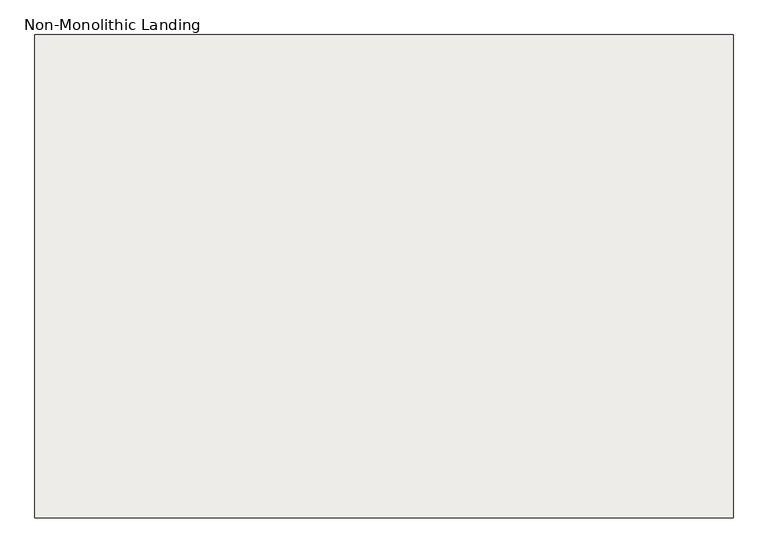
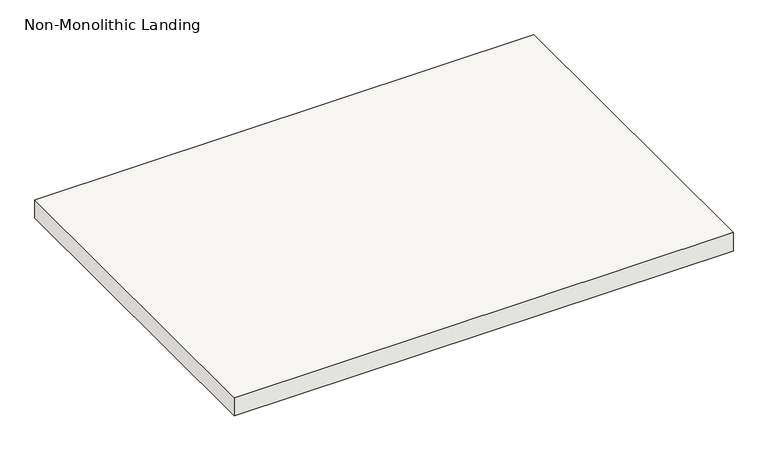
"""IFC4 building model written with IfcOpenShell, lengths in millimetres: slab geometry, Non-Monolithic Landing."""

from ifc_helpers import new_model, si_unit, frame, origin, place, context, project, spatial, polyline, outline, extrude, source, transform, mapped, element, save


def non_monolithic_landing_2175300e(model_context):
    return source(origin(), model_context, "Body", "SweptSolid", [
        extrude(outline(polyline([(112702.0882982, 16760.4395941), (114022.8882982, 16760.4395941), (114022.8882982, 15846.0395941), (112702.0882982, 15846.0395941), (112702.0882982, 16760.4395941)])), frame((0.0, 0.0, 2126.3428571), z_axis=(0.0, 0.0, 1.0), x_axis=(1.0, 0.0, 0.0)), (0.0, 0.0, 1.0), 50.8),
    ])


if __name__ == "__main__":
    model = new_model("IFC4")
    model_context = context("Model", 3, world=origin())
    ifc_project = project(units=[si_unit("LENGTHUNIT", "METRE", prefix="MILLI")], contexts=[model_context])
    site = spatial("IfcSite", under=ifc_project)
    building = spatial("IfcBuilding", under=site)
    placement = place(None, origin())
    non_monolithic_landing_shape = non_monolithic_landing_2175300e(model_context)
    element("IfcSlab", 1, ObjectType="Non-Monolithic Landing", at=placement, inside=building, context=model_context, shape_type="MappedRepresentation", body=[
        mapped(non_monolithic_landing_shape, transform((0.0, 0.0, 0.0), x_axis=(1.0, 0.0, 0.0), y_axis=(0.0, 1.0, 0.0), z_axis=(0.0, 0.0, 1.0))),
    ])
    save(model, "model.ifc")
